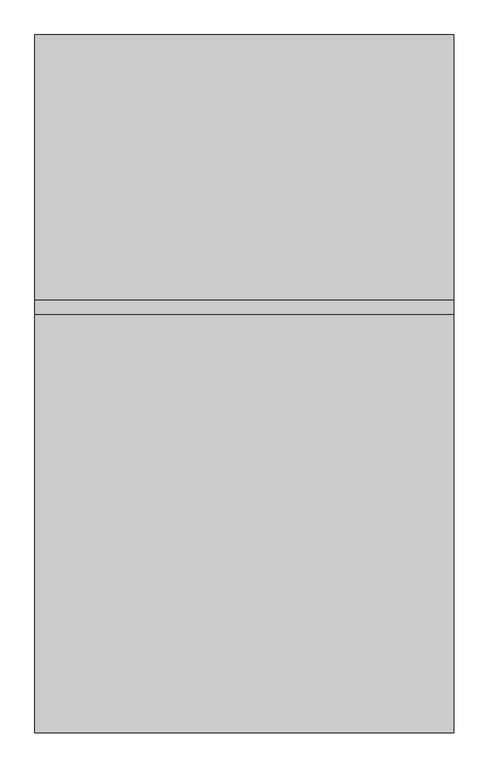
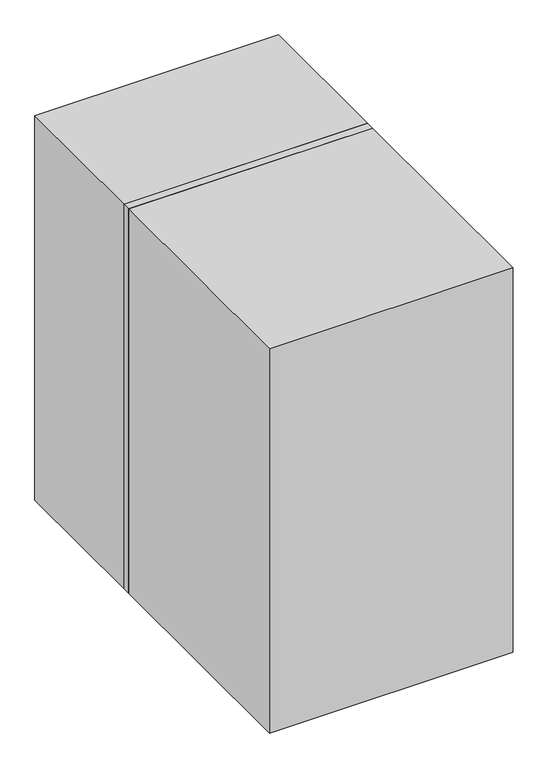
"""IFC4 building model written with IfcOpenShell, lengths in millimetres: electric distribution board geometry, НВО_НавесныеШкафыТелекоммуникационныеСтекляннаяДверца_DKC : IP31 RAL7035 400х600х1000 мм (ГхШхВ)."""

import ifcopenshell
import ifcopenshell.guid

model = None  # the IFC model being written
_history = None  # IfcOwnerHistory: only IFC2X3 demands one
_inside = {}  # id of a spatial element -> (the spatial element, [elements in it])
_under = {}  # id of a project, library or spatial element -> (it, [spatial elements below it])
_declared = {}  # id of a project -> (the project, [libraries it declares])
_typed = {}  # id of a type object -> (the type object, [elements of that type])
_made_of = {}  # id of a material, layer set ... -> (it, [elements and type objects made of it])


def new_model(schema):
    """Start an empty IFC model of exactly this schema.

    Asked for "IFC4X3", IfcOpenShell would pick the latest addendum, in which some entities
    have other attributes; the version numbers below select the first issue.
    IFC2X3 requires an IfcOwnerHistory on every rooted entity: one is made here for all.
    """
    global model, _history
    if schema == "IFC4X3":
        model = ifcopenshell.file(schema_version=(4, 3, 0, 0))
    else:
        model = ifcopenshell.file(schema=schema)
    _inside.clear()
    _under.clear()
    _declared.clear()
    _typed.clear()
    _made_of.clear()
    _history = None
    if model.schema == "IFC2X3":
        org = make("IfcOrganization", Name="unknown")
        user = make(
            "IfcPersonAndOrganization",
            ThePerson=make("IfcPerson", FamilyName="unknown"),
            TheOrganization=org,
        )
        app = make(
            "IfcApplication",
            ApplicationDeveloper=org,
            Version="unknown",
            ApplicationFullName="unknown",
            ApplicationIdentifier="unknown",
        )
        _history = make(
            "IfcOwnerHistory",
            OwningUser=user,
            OwningApplication=app,
            ChangeAction="ADDED",
            CreationDate=0,
        )
    return model


def make(cls, **values):
    """One entity of the class cls with the attributes given. An attribute that is None is left unset."""
    return model.create_entity(
        cls, **{name: value for name, value in values.items() if value is not None}
    )


def rooted(cls, **values):
    """An entity with a GlobalId (a new one), such as an element, a storey or a relation."""
    return make(cls, GlobalId=ifcopenshell.guid.new(), OwnerHistory=_history, **values)


def si_unit(unit_type, name, prefix=None):
    """IfcSIUnit, for example si_unit("LENGTHUNIT", "METRE", prefix="MILLI")."""
    return make("IfcSIUnit", UnitType=unit_type, Prefix=prefix, Name=name)


def assignment(units):
    """IfcUnitAssignment: the units of a project."""
    return None if units is None else make("IfcUnitAssignment", Units=units)


def point(xyz):
    """IfcCartesianPoint."""
    return None if xyz is None else make("IfcCartesianPoint", Coordinates=xyz)


def direction(xyz):
    """IfcDirection."""
    return None if xyz is None else make("IfcDirection", DirectionRatios=xyz)


def frame(location, z_axis=None, x_axis=None):
    """IfcAxis2Placement3D, a coordinate frame: its origin and axes. An axis left out is left unset."""
    return make(
        "IfcAxis2Placement3D",
        Location=point(location),
        Axis=direction(z_axis),
        RefDirection=direction(x_axis),
    )


def frame_2d(location, x_axis=None):
    """IfcAxis2Placement2D, a coordinate frame in the plane: its origin and x axis."""
    return make(
        "IfcAxis2Placement2D", Location=point(location), RefDirection=direction(x_axis)
    )


def origin():
    """The frame at (0, 0, 0) with its axes left unset."""
    return frame((0.0, 0.0, 0.0))


def place(relative_to, where):
    """IfcLocalPlacement: puts the frame where relative to a parent placement (None: the world)."""
    return make(
        "IfcLocalPlacement", PlacementRelTo=relative_to, RelativePlacement=where
    )


def context(
    kind, dimensions, precision=None, world=None, true_north=None, identifier=None
):
    """IfcGeometricRepresentationContext, for example the 3D "Model" context."""
    return make(
        "IfcGeometricRepresentationContext",
        ContextIdentifier=identifier,
        ContextType=kind,
        CoordinateSpaceDimension=dimensions,
        Precision=precision,
        WorldCoordinateSystem=world,
        TrueNorth=true_north,
    )


def project(units=None, contexts=None):
    """IfcProject with its units and contexts."""
    return rooted(
        "IfcProject",
        Name="project",
        RepresentationContexts=contexts,
        UnitsInContext=assignment(units),
    )


def spatial(cls, under=None, at=None, **own):
    """A site, building, storey or space (cls), placed at a placement, below another one or the project."""
    s = rooted(cls, ObjectPlacement=at, **own)
    if under is not None:
        _under.setdefault(under.id(), (under, []))[1].append(s)
    return s


def polyline(points):
    """IfcPolyline through the points."""
    return make("IfcPolyline", Points=[point(p) for p in points])


def circle_curve(where, radius):
    """IfcCircle in the frame where."""
    return make("IfcCircle", Position=where, Radius=radius)


def trimmed(basis, trim1, trim2, sense, master):
    """IfcTrimmedCurve: the piece of a basis curve between two trims."""
    return make(
        "IfcTrimmedCurve",
        BasisCurve=basis,
        Trim1=trim1,
        Trim2=trim2,
        SenseAgreement=sense,
        MasterRepresentation=master,
    )


def segment(curve, same_sense, transition):
    """IfcCompositeCurveSegment."""
    return make(
        "IfcCompositeCurveSegment",
        Transition=transition,
        SameSense=same_sense,
        ParentCurve=curve,
    )


def composite_curve(segments, self_intersect=None):
    """IfcCompositeCurve: segments joined end to end."""
    return make("IfcCompositeCurve", Segments=segments, SelfIntersect=self_intersect)


def outline(outer, holes=None, kind="AREA"):
    """IfcArbitraryClosedProfileDef: a profile drawn as a closed curve; with holes, ...WithVoids."""
    if holes is None:
        return make("IfcArbitraryClosedProfileDef", ProfileType=kind, OuterCurve=outer)
    return make(
        "IfcArbitraryProfileDefWithVoids",
        ProfileType=kind,
        OuterCurve=outer,
        InnerCurves=holes,
    )


def extrude(swept, where, along, depth):
    """IfcExtrudedAreaSolid: the profile swept, set in the frame where, extruded along a direction by depth."""
    return make(
        "IfcExtrudedAreaSolid",
        SweptArea=swept,
        Position=where,
        ExtrudedDirection=direction(along),
        Depth=depth,
    )


def faces_of(points, faces, orient=None, outer=None):
    """IfcFace entities. A face is a list of loops; a loop is a list of indices into points, from 0.

    orient and outer hold one flag for each loop. By default every Orientation is true, the
    first loop of a face is its IfcFaceOuterBound and the others are IfcFaceBound.
    """
    made = []
    for i, loops in enumerate(faces):
        bounds = []
        for j, loop in enumerate(loops):
            is_outer = j == 0 if outer is None else outer[i][j]
            bounds.append(
                make(
                    "IfcFaceOuterBound" if is_outer else "IfcFaceBound",
                    Bound=make("IfcPolyLoop", Polygon=[points[k] for k in loop]),
                    Orientation=True if orient is None else orient[i][j],
                )
            )
        made.append(make("IfcFace", Bounds=bounds))
    return made


def faceted_brep(points, faces, orient=None, outer=None, voids=None):
    """IfcFacetedBrep: a solid bounded by flat faces; with voids (closed shells), ...WithVoids."""
    shared = [point(p) for p in points]
    hull = make("IfcClosedShell", CfsFaces=faces_of(shared, faces, orient, outer))
    if voids is None:
        return make("IfcFacetedBrep", Outer=hull)
    return make(
        "IfcFacetedBrepWithVoids",
        Outer=hull,
        Voids=[
            make(cls, CfsFaces=faces_of(shared, fs, o, b)) for cls, fs, o, b in voids
        ],
    )


def shape(context_of_items, identifier, shape_type, items):
    """IfcShapeRepresentation: the items that make up one representation, for example the "Body"."""
    return make(
        "IfcShapeRepresentation",
        ContextOfItems=context_of_items,
        RepresentationIdentifier=identifier,
        RepresentationType=shape_type,
        Items=items,
    )


def source(mapping_origin, context_of_items, identifier, shape_type, items):
    """IfcRepresentationMap: a shape defined once, which mapped items show again and again."""
    return make(
        "IfcRepresentationMap",
        MappingOrigin=mapping_origin,
        MappedRepresentation=shape(context_of_items, identifier, shape_type, items),
    )


def transform(
    local_origin,
    x_axis=None,
    y_axis=None,
    z_axis=None,
    scale=None,
    scale2=None,
    scale3=None,
    uniform=True,
):
    """IfcCartesianTransformationOperator3D, or its non-uniform kind. x_axis, y_axis, z_axis: its Axis1, 2, 3."""
    if uniform:
        return make(
            "IfcCartesianTransformationOperator3D",
            Axis1=direction(x_axis),
            Axis2=direction(y_axis),
            LocalOrigin=point(local_origin),
            Scale=scale,
            Axis3=direction(z_axis),
        )
    return make(
        "IfcCartesianTransformationOperator3DnonUniform",
        Axis1=direction(x_axis),
        Axis2=direction(y_axis),
        LocalOrigin=point(local_origin),
        Scale=scale,
        Axis3=direction(z_axis),
        Scale2=scale2,
        Scale3=scale3,
    )


def mapped(mapping_source, mapping_target):
    """IfcMappedItem: shows the shape of a source again, moved by a transform."""
    return make(
        "IfcMappedItem", MappingSource=mapping_source, MappingTarget=mapping_target
    )


def made_of(thing, what):
    """Note that an element or type object is made of a material, layer set ...; save() writes the relation."""
    if what is not None:
        _made_of.setdefault(what.id(), (what, []))[1].append(thing)
    return thing


def element(
    cls,
    number,
    at=None,
    inside=None,
    cuts=None,
    type_object=None,
    material=None,
    context=None,
    identifier="Body",
    shape_type=None,
    held_by="IfcProductDefinitionShape",
    body=None,
    shapes=None,
    **own,
):
    """One element of the class cls, such as IfcWall. Its Tag is "e" and its number.

    at: its placement. inside: the storey or other place that contains it. cuts: it is an
    opening in that element (IfcRelVoidsElement). A single representation is given by context,
    identifier, shape_type and body (its items); several are given by shapes. held_by: the class
    of the entity that holds the representations. save() writes the other relations.
    """
    e = rooted(cls, Tag="e%d" % number, ObjectPlacement=at, **own)
    if body is not None:
        shapes = [shape(context, identifier, shape_type, body)]
    if shapes is not None:
        e.Representation = make(held_by, Representations=shapes)
    if inside is not None:
        _inside.setdefault(inside.id(), (inside, []))[1].append(e)
    if cuts is not None:
        rooted(
            "IfcRelVoidsElement", RelatingBuildingElement=cuts, RelatedOpeningElement=e
        )
    if type_object is not None:
        _typed.setdefault(type_object.id(), (type_object, []))[1].append(e)
    return made_of(e, material)


def aggregate(whole, parts):
    """IfcRelAggregates: a whole, such as a stair, and the parts it consists of."""
    return rooted("IfcRelAggregates", RelatingObject=whole, RelatedObjects=parts)


def save(model, path):
    """Write the relations noted so far, then the file.

    IfcRelAggregates (storeys below a building ...), IfcRelContainedInSpatialStructure (elements
    in a storey), IfcRelDefinesByType, IfcRelAssociatesMaterial and IfcRelDeclares: one each for
    every whole, place, type object, material and project.
    """
    for whole, parts in _under.values():
        aggregate(whole, parts)
    for where, things in _inside.values():
        rooted(
            "IfcRelContainedInSpatialStructure",
            RelatedElements=things,
            RelatingStructure=where,
        )
    for kind, things in _typed.values():
        rooted("IfcRelDefinesByType", RelatedObjects=things, RelatingType=kind)
    for what, things in _made_of.values():
        rooted("IfcRelAssociatesMaterial", RelatedObjects=things, RelatingMaterial=what)
    for by, libraries in _declared.values():
        rooted("IfcRelDeclares", RelatingContext=by, RelatedDefinitions=libraries)
    model.write(path)


def plane_surface(at):
    """IfcPlane: the flat surface through the origin of the frame at, square to its z axis."""
    return make("IfcPlane", Position=at)


def cylinder_surface(at, radius):
    """IfcCylindricalSurface: all points at the distance radius from the z axis of the frame at."""
    return make("IfcCylindricalSurface", Position=at, Radius=radius)


def revolved_surface(curve, axis_point, axis_direction):
    """IfcSurfaceOfRevolution: the curve turned about the line through axis_point along axis_direction."""
    return make(
        "IfcSurfaceOfRevolution",
        SweptCurve=make("IfcArbitraryOpenProfileDef", ProfileType="CURVE", Curve=curve),
        AxisPosition=make("IfcAxis1Placement", Location=point(axis_point), Axis=direction(axis_direction)),
    )


def advanced_brep(points, edges, surfaces, faces):
    """IfcAdvancedBrep: a solid bounded by faces that lie on surfaces and meet in shared edges.

    An edge is (start, end): straight between two places in points (the first is 0);
    or (start, end, curve); or (start, end, curve, False) where it runs against its curve.
    A face is (place in surfaces, loops), or (place, loops, False) where it looks against
    its surface's normal. A loop lists edges by number (the first is 1), with a minus sign
    where the edge is run from its end to its start. The first loop is the outer one.
    """
    corners = [point(p) for p in points]
    vertices = [make("IfcVertexPoint", VertexGeometry=c) for c in corners]
    made = []
    for start, end, *more in edges:
        made.append(
            make(
                "IfcEdgeCurve",
                EdgeStart=vertices[start],
                EdgeEnd=vertices[end],
                EdgeGeometry=more[0] if more else make("IfcPolyline", Points=[corners[start], corners[end]]),
                SameSense=more[1] if len(more) > 1 else True,
            )
        )
    hull = []
    for where, loops, *sense in faces:
        bounds = []
        for j, loop in enumerate(loops):
            ring = [make("IfcOrientedEdge", EdgeElement=made[abs(k) - 1], Orientation=k > 0) for k in loop]
            bounds.append(
                make(
                    "IfcFaceOuterBound" if j == 0 else "IfcFaceBound",
                    Bound=make("IfcEdgeLoop", EdgeList=ring),
                    Orientation=True,
                )
            )
        hull.append(make("IfcAdvancedFace", Bounds=bounds, FaceSurface=surfaces[where], SameSense=sense[0] if sense else True))
    return make("IfcAdvancedBrep", Outer=make("IfcClosedShell", CfsFaces=hull))


def electric_distribution_board_b48a5c49(model_context):
    return source(origin(), model_context, "Body", "SolidModel", [
        extrude(outline(composite_curve([segment(polyline([(1245.2522548, -270.4361714), (1245.2522548, -262.7599567)]), True, "CONTINUOUS"), segment(trimmed(circle_curve(frame_2d((1254.6374537, -262.7599567)), 9.3851989), [point((1245.2522548, -262.7599567))], [point((1245.9237849, -259.2737072))], False, "CARTESIAN"), True, "CONTINUOUS"), segment(trimmed(circle_curve(frame_2d((1250.4697033, -261.0924825)), 4.8962555), [point((1245.9237849, -259.2737072))], [point((1250.0, -256.2188087))], False, "CARTESIAN"), True, "CONTINUOUS"), segment(trimmed(circle_curve(frame_2d((1249.5302967, -261.0924825)), 4.8962555), [point((1250.0, -256.2188087))], [point((1254.0762151, -259.2737072))], False, "CARTESIAN"), True, "CONTINUOUS"), segment(trimmed(circle_curve(frame_2d((1245.3625463, -262.7599567)), 9.3851989), [point((1254.0762151, -259.2737072))], [point((1254.7477452, -262.7599567))], False, "CARTESIAN"), True, "CONTINUOUS"), segment(polyline([(1254.7477452, -262.7599567), (1254.7477452, -270.4361714), (1245.2522548, -270.4361714)]), True, "CONTINUOUS")], self_intersect=False), holes=[composite_curve([segment(polyline([(1253.4305842, -266.8662202), (1253.4305842, -264.3065187)]), True, "CONTINUOUS"), segment(trimmed(circle_curve(frame_2d((1245.7124901, -264.3065187)), 7.7180942), [point((1253.4305842, -264.3065187))], [point((1252.8023319, -261.256417))], True, "CARTESIAN"), True, "CONTINUOUS"), segment(trimmed(circle_curve(frame_2d((1251.0797503, -261.9974842)), 1.8752248), [point((1252.8023319, -261.256417))], [point((1251.4095765, -260.1514932))], True, "CARTESIAN"), True, "CONTINUOUS"), segment(trimmed(circle_curve(frame_2d((1249.6204625, -270.1649135)), 10.1719966), [point((1251.4095765, -260.1514932))], [point((1250.0, -260.0))], True, "CARTESIAN"), True, "CONTINUOUS"), segment(trimmed(circle_curve(frame_2d((1250.3795375, -270.1649135)), 10.1719966), [point((1250.0, -260.0))], [point((1248.5904235, -260.1514932))], True, "CARTESIAN"), True, "CONTINUOUS"), segment(trimmed(circle_curve(frame_2d((1248.9202497, -261.9974842)), 1.8752248), [point((1248.5904235, -260.1514932))], [point((1247.1976681, -261.256417))], True, "CARTESIAN"), True, "CONTINUOUS"), segment(trimmed(circle_curve(frame_2d((1254.2875099, -264.3065187)), 7.7180942), [point((1247.1976681, -261.256417))], [point((1246.5694158, -264.3065187))], True, "CARTESIAN"), True, "CONTINUOUS"), segment(polyline([(1246.5694158, -264.3065187), (1246.5694158, -266.8662202), (1253.4305842, -266.8662202)]), True, "CONTINUOUS")], self_intersect=False)]), frame((0.0, -402.0, 0.0), z_axis=(0.0, 1.0, 0.0), x_axis=(0.0, 0.0, 1.0)), (0.0, 0.0, 1.0), 2.0),
        extrude(outline(polyline([(1254.7477452, -254.3848727), (1245.2522548, -254.3848727), (1245.2522548, -250.9908575), (1249.2401383, -250.9908575), (1245.2522548, -246.444158), (1245.2522548, -242.3120204), (1250.5384249, -248.1731846), (1254.7477452, -242.4434669), (1254.7477452, -245.0016173), (1250.2876655, -251.0245618), (1254.7477452, -251.0245618), (1254.7477452, -254.3848727)])), frame((0.0, -402.0, 0.0), z_axis=(0.0, 1.0, 0.0), x_axis=(0.0, 0.0, 1.0)), (0.0, 0.0, 1.0), 2.0),
        extrude(outline(composite_curve([segment(trimmed(circle_curve(frame_2d((1240.0078894, -234.3366932)), 14.8634972), [point((1254.0743349, -229.5347498))], [point((1254.6196872, -237.0604615))], False, "CARTESIAN"), True, "CONTINUOUS"), segment(trimmed(circle_curve(frame_2d((1242.9596787, -234.8869328)), 11.860861), [point((1254.6196872, -237.0604615))], [point((1253.3117677, -240.6760845))], False, "CARTESIAN"), True, "CONTINUOUS"), segment(trimmed(circle_curve(frame_2d((1248.8392604, -238.1749446)), 5.1243559), [point((1253.3117677, -240.6760845))], [point((1251.6421758, -242.46478))], False, "CARTESIAN"), True, "CONTINUOUS"), segment(trimmed(circle_curve(frame_2d((1250.1147571, -240.1270803)), 2.7924627), [point((1251.6421758, -242.46478))], [point((1250.0, -242.917184))], False, "CARTESIAN"), True, "CONTINUOUS"), segment(trimmed(circle_curve(frame_2d((1250.1764499, -238.6271352)), 4.2936759), [point((1250.0, -242.917184))], [point((1246.4762827, -240.8053031))], False, "CARTESIAN"), True, "CONTINUOUS"), segment(trimmed(circle_curve(frame_2d((1256.6930797, -234.7910077)), 11.8555763), [point((1246.4762827, -240.8053031))], [point((1245.7901742, -230.134685))], False, "CARTESIAN"), True, "CONTINUOUS"), segment(polyline([(1245.7901742, -230.134685), (1247.2760981, -229.6190256)]), True, "CONTINUOUS"), segment(trimmed(circle_curve(frame_2d((1253.3401731, -233.6307387)), 7.2709591), [point((1247.2760981, -229.6190256))], [point((1247.5933204, -238.0850098))], True, "CARTESIAN"), True, "CONTINUOUS"), segment(trimmed(circle_curve(frame_2d((1249.8135247, -236.3641737)), 2.8090184), [point((1247.5933204, -238.0850098))], [point((1250.8831991, -238.9615532))], True, "CARTESIAN"), True, "CONTINUOUS"), segment(trimmed(circle_curve(frame_2d((1249.3581346, -235.2583969)), 4.0048956), [point((1250.8831991, -238.9615532))], [point((1252.8847256, -237.1563813))], True, "CARTESIAN"), True, "CONTINUOUS"), segment(trimmed(circle_curve(frame_2d((1247.4021495, -234.2057006)), 6.2261671), [point((1252.8847256, -237.1563813))], [point((1252.1645049, -230.1950738))], True, "CARTESIAN"), True, "CONTINUOUS"), segment(polyline([(1252.1645049, -230.1950738), (1254.0743349, -229.5347498)]), True, "CONTINUOUS")], self_intersect=False)), frame((0.0, -402.0, 0.0), z_axis=(0.0, 1.0, 0.0), x_axis=(0.0, 0.0, 1.0)), (0.0, 0.0, 1.0), 2.0),
        extrude(outline(composite_curve([segment(polyline([(-276.0844115, 1253.9810141), (-276.0844115, 1253.1225561), (-277.2764216, 1253.1225561), (-277.2764216, 1253.9989449), (-286.7056091, 1253.9989449), (-286.7056091, 1246.0055647), (-280.8520843, 1246.0055647)]), True, "CONTINUOUS"), segment(trimmed(circle_curve(frame_2d((-280.8520843, 1247.9883644)), 1.9827998), [point((-280.8520843, 1246.0055647))], [point((-282.7799001, 1247.524661))], False, "CARTESIAN"), True, "CONTINUOUS"), segment(polyline([(-282.7799001, 1247.524661), (-282.7799001, 1248.5784181)]), True, "CONTINUOUS"), segment(trimmed(circle_curve(frame_2d((-277.7500222, 1253.048804)), 6.7293403), [point((-282.7799001, 1248.5784181))], [point((-272.7201443, 1248.5784181))], True, "CARTESIAN"), True, "CONTINUOUS"), segment(polyline([(-272.7201443, 1248.5784181), (-272.7201443, 1247.2967122)]), True, "CONTINUOUS"), segment(trimmed(circle_curve(frame_2d((-276.7257862, 1250.1985482)), 4.9462935), [point((-272.7201443, 1247.2967122))], [point((-276.7257862, 1245.2522548))], False, "CARTESIAN"), True, "CONTINUOUS"), segment(polyline([(-276.7257862, 1245.2522548), (-288.8959546, 1245.2522548)]), True, "CONTINUOUS"), segment(trimmed(circle_curve(frame_2d((-288.8959546, 1246.2525173)), 1.0002626), [point((-288.8959546, 1245.2522548))], [point((-289.8962172, 1246.2525173))], False, "CARTESIAN"), True, "CONTINUOUS"), segment(polyline([(-289.8962172, 1246.2525173), (-289.8962172, 1253.7482214)]), True, "CONTINUOUS"), segment(trimmed(circle_curve(frame_2d((-288.8921838, 1253.7482214)), 1.0040334), [point((-289.8962172, 1253.7482214))], [point((-288.8921838, 1254.7522548))], False, "CARTESIAN"), True, "CONTINUOUS"), segment(polyline([(-288.8921838, 1254.7522548), (-276.8556522, 1254.7522548)]), True, "CONTINUOUS"), segment(trimmed(circle_curve(frame_2d((-276.8556522, 1253.9810141)), 0.7712407), [point((-276.8556522, 1254.7522548))], [point((-276.0844115, 1253.9810141))], False, "CARTESIAN"), True, "CONTINUOUS")], self_intersect=False)), frame((0.0, -400.0, 0.0), z_axis=(0.0, -1.0, 0.0), x_axis=(1.0, 0.0, 0.0)), (0.0, 0.0, 1.0), 2.0),
        extrude(outline(composite_curve([segment(polyline([(1249.1735802, -272.7201443), (1249.9609475, -272.7201443)]), True, "CONTINUOUS"), segment(trimmed(circle_curve(frame_2d((1255.0528216, -277.7500222)), 7.1572937), [point((1249.9609475, -272.7201443))], [point((1249.9609475, -282.7799001))], True, "CARTESIAN"), True, "CONTINUOUS"), segment(polyline([(1249.9609475, -282.7799001), (1249.1735802, -282.7799001)]), True, "CONTINUOUS"), segment(trimmed(circle_curve(frame_2d((1253.6469573, -277.7500222)), 6.7313279), [point((1249.1735802, -282.7799001))], [point((1249.1735802, -272.7201443))], False, "CARTESIAN"), True, "CONTINUOUS")], self_intersect=False)), frame((0.0, -402.0, 0.0), z_axis=(0.0, 1.0, 0.0), x_axis=(0.0, 0.0, 1.0)), (0.0, 0.0, 1.0), 2.0),
        extrude(outline(composite_curve([segment(trimmed(circle_curve(frame_2d((1245.6681942, -277.6745713)), 5.9267817), [point((1249.8365314, -273.4612939))], [point((1249.892123, -281.8321146))], False, "CARTESIAN"), True, "CONTINUOUS"), segment(polyline([(1249.892123, -281.8321146), (1249.3386839, -281.2786755)]), True, "CONTINUOUS"), segment(trimmed(circle_curve(frame_2d((1244.0800223, -277.6967539)), 6.3626791), [point((1249.3386839, -281.2786755))], [point((1249.3386839, -274.1148323))], True, "CARTESIAN"), True, "CONTINUOUS"), segment(polyline([(1249.3386839, -274.1148323), (1249.8365314, -273.4612939)]), True, "CONTINUOUS")], self_intersect=False)), frame((0.0, -402.0, 0.0), z_axis=(0.0, 1.0, 0.0), x_axis=(0.0, 0.0, 1.0)), (0.0, 0.0, 1.0), 2.0),
        extrude(outline(composite_curve([segment(trimmed(circle_curve(frame_2d((1243.5765057, -277.7053491)), 6.5304546), [point((1249.2646248, -274.4972128))], [point((1249.2646248, -280.9134855))], False, "CARTESIAN"), True, "CONTINUOUS"), segment(polyline([(1249.2646248, -280.9134855), (1248.9146088, -280.0681193)]), True, "CONTINUOUS"), segment(trimmed(circle_curve(frame_2d((1242.4429647, -277.6966214)), 6.8924726), [point((1248.9146088, -280.0681193))], [point((1248.9146088, -275.3251236))], True, "CARTESIAN"), True, "CONTINUOUS"), segment(polyline([(1248.9146088, -275.3251236), (1249.2646248, -274.4972128)]), True, "CONTINUOUS")], self_intersect=False)), frame((0.0, -402.0, 0.0), z_axis=(0.0, 1.0, 0.0), x_axis=(0.0, 0.0, 1.0)), (0.0, 0.0, 1.0), 2.0),
        extrude(outline(composite_curve([segment(polyline([(1249.9744254, -273.3219133), (1250.6884044, -272.6079342)]), True, "CONTINUOUS"), segment(trimmed(circle_curve(frame_2d((1245.6681942, -277.6745713)), 7.1325536), [point((1250.6884044, -272.6079342))], [point((1250.7458455, -282.683641))], False, "CARTESIAN"), True, "CONTINUOUS"), segment(polyline([(1250.7458455, -282.683641), (1250.031856, -281.9696515)]), True, "CONTINUOUS"), segment(trimmed(circle_curve(frame_2d((1245.6681942, -277.6745713)), 6.1228472), [point((1250.031856, -281.9696515))], [point((1249.9744254, -273.3219133))], True, "CARTESIAN"), True, "CONTINUOUS")], self_intersect=False)), frame((0.0, -402.0, 0.0), z_axis=(0.0, 1.0, 0.0), x_axis=(0.0, 0.0, 1.0)), (0.0, 0.0, 1.0), 2.0),
        extrude(outline(polyline([(1800.0, 300.0), (1800.0, -300.0), (800.0, -300.0), (800.0, 300.0), (1800.0, 300.0)]), holes=[polyline([(880.0, -220.0), (1720.0, -220.0), (1720.0, 220.0), (880.0, 220.0), (880.0, -220.0)]), polyline([(940.0, -267.5), (980.0, -267.5), (980.0, -262.5), (945.0, -262.5), (945.0, -227.5), (940.0, -227.5), (940.0, -267.5)]), polyline([(990.0, -252.5), (950.0, -252.5), (950.0, -257.5), (985.0, -257.5), (985.0, -292.5), (990.0, -292.5), (990.0, -252.5)]), polyline([(980.0, 262.5), (980.0, 267.5), (940.0, 267.5), (940.0, 227.5), (945.0, 227.5), (945.0, 262.5), (980.0, 262.5)]), polyline([(950.0, 257.5), (950.0, 252.5), (990.0, 252.5), (990.0, 292.5), (985.0, 292.5), (985.0, 257.5), (950.0, 257.5)]), polyline([(1000.0, -267.5), (1040.0, -267.5), (1040.0, -262.5), (1005.0, -262.5), (1005.0, -227.5), (1000.0, -227.5), (1000.0, -267.5)]), polyline([(1050.0, -252.5), (1010.0, -252.5), (1010.0, -257.5), (1045.0, -257.5), (1045.0, -292.5), (1050.0, -292.5), (1050.0, -252.5)]), polyline([(1040.0, 262.5), (1040.0, 267.5), (1000.0, 267.5), (1000.0, 227.5), (1005.0, 227.5), (1005.0, 262.5), (1040.0, 262.5)]), polyline([(1010.0, 257.5), (1010.0, 252.5), (1050.0, 252.5), (1050.0, 292.5), (1045.0, 292.5), (1045.0, 257.5), (1010.0, 257.5)]), polyline([(1060.0, -267.5), (1100.0, -267.5), (1100.0, -262.5), (1065.0, -262.5), (1065.0, -227.5), (1060.0, -227.5), (1060.0, -267.5)]), polyline([(1110.0, -252.5), (1070.0, -252.5), (1070.0, -257.5), (1105.0, -257.5), (1105.0, -292.5), (1110.0, -292.5), (1110.0, -252.5)]), polyline([(1100.0, 262.5), (1100.0, 267.5), (1060.0, 267.5), (1060.0, 227.5), (1065.0, 227.5), (1065.0, 262.5), (1100.0, 262.5)]), polyline([(1070.0, 257.5), (1070.0, 252.5), (1110.0, 252.5), (1110.0, 292.5), (1105.0, 292.5), (1105.0, 257.5), (1070.0, 257.5)]), polyline([(1120.0, -267.5), (1160.0, -267.5), (1160.0, -262.5), (1125.0, -262.5), (1125.0, -227.5), (1120.0, -227.5), (1120.0, -267.5)]), polyline([(1170.0, -252.5), (1130.0, -252.5), (1130.0, -257.5), (1165.0, -257.5), (1165.0, -292.5), (1170.0, -292.5), (1170.0, -252.5)]), polyline([(1160.0, 262.5), (1160.0, 267.5), (1120.0, 267.5), (1120.0, 227.5), (1125.0, 227.5), (1125.0, 262.5), (1160.0, 262.5)]), polyline([(1130.0, 257.5), (1130.0, 252.5), (1170.0, 252.5), (1170.0, 292.5), (1165.0, 292.5), (1165.0, 257.5), (1130.0, 257.5)]), polyline([(1180.0, -267.5), (1220.0, -267.5), (1220.0, -262.5), (1185.0, -262.5), (1185.0, -227.5), (1180.0, -227.5), (1180.0, -267.5)]), polyline([(1230.0, -252.5), (1190.0, -252.5), (1190.0, -257.5), (1225.0, -257.5), (1225.0, -292.5), (1230.0, -292.5), (1230.0, -252.5)]), polyline([(1220.0, 262.5), (1220.0, 267.5), (1180.0, 267.5), (1180.0, 227.5), (1185.0, 227.5), (1185.0, 262.5), (1220.0, 262.5)]), polyline([(1190.0, 257.5), (1190.0, 252.5), (1230.0, 252.5), (1230.0, 292.5), (1225.0, 292.5), (1225.0, 257.5), (1190.0, 257.5)]), polyline([(1240.0, -267.5), (1280.0, -267.5), (1280.0, -262.5), (1245.0, -262.5), (1245.0, -227.5), (1240.0, -227.5), (1240.0, -267.5)]), polyline([(1290.0, -252.5), (1250.0, -252.5), (1250.0, -257.5), (1285.0, -257.5), (1285.0, -292.5), (1290.0, -292.5), (1290.0, -252.5)]), polyline([(1280.0, 262.5), (1280.0, 267.5), (1240.0, 267.5), (1240.0, 227.5), (1245.0, 227.5), (1245.0, 262.5), (1280.0, 262.5)]), polyline([(1250.0, 257.5), (1250.0, 252.5), (1290.0, 252.5), (1290.0, 292.5), (1285.0, 292.5), (1285.0, 257.5), (1250.0, 257.5)]), polyline([(1300.0, -267.5), (1340.0, -267.5), (1340.0, -262.5), (1305.0, -262.5), (1305.0, -227.5), (1300.0, -227.5), (1300.0, -267.5)]), polyline([(1350.0, -252.5), (1310.0, -252.5), (1310.0, -257.5), (1345.0, -257.5), (1345.0, -292.5), (1350.0, -292.5), (1350.0, -252.5)]), polyline([(1340.0, 262.5), (1340.0, 267.5), (1300.0, 267.5), (1300.0, 227.5), (1305.0, 227.5), (1305.0, 262.5), (1340.0, 262.5)]), polyline([(1310.0, 257.5), (1310.0, 252.5), (1350.0, 252.5), (1350.0, 292.5), (1345.0, 292.5), (1345.0, 257.5), (1310.0, 257.5)]), polyline([(1360.0, -267.5), (1400.0, -267.5), (1400.0, -262.5), (1365.0, -262.5), (1365.0, -227.5), (1360.0, -227.5), (1360.0, -267.5)]), polyline([(1410.0, -252.5), (1370.0, -252.5), (1370.0, -257.5), (1405.0, -257.5), (1405.0, -292.5), (1410.0, -292.5), (1410.0, -252.5)]), polyline([(1400.0, 262.5), (1400.0, 267.5), (1360.0, 267.5), (1360.0, 227.5), (1365.0, 227.5), (1365.0, 262.5), (1400.0, 262.5)]), polyline([(1370.0, 257.5), (1370.0, 252.5), (1410.0, 252.5), (1410.0, 292.5), (1405.0, 292.5), (1405.0, 257.5), (1370.0, 257.5)]), polyline([(1420.0, -267.5), (1460.0, -267.5), (1460.0, -262.5), (1425.0, -262.5), (1425.0, -227.5), (1420.0, -227.5), (1420.0, -267.5)]), polyline([(1470.0, -252.5), (1430.0, -252.5), (1430.0, -257.5), (1465.0, -257.5), (1465.0, -292.5), (1470.0, -292.5), (1470.0, -252.5)]), polyline([(1460.0, 262.5), (1460.0, 267.5), (1420.0, 267.5), (1420.0, 227.5), (1425.0, 227.5), (1425.0, 262.5), (1460.0, 262.5)]), polyline([(1430.0, 257.5), (1430.0, 252.5), (1470.0, 252.5), (1470.0, 292.5), (1465.0, 292.5), (1465.0, 257.5), (1430.0, 257.5)]), polyline([(1480.0, -267.5), (1520.0, -267.5), (1520.0, -262.5), (1485.0, -262.5), (1485.0, -227.5), (1480.0, -227.5), (1480.0, -267.5)]), polyline([(1530.0, -252.5), (1490.0, -252.5), (1490.0, -257.5), (1525.0, -257.5), (1525.0, -292.5), (1530.0, -292.5), (1530.0, -252.5)]), polyline([(1520.0, 262.5), (1520.0, 267.5), (1480.0, 267.5), (1480.0, 227.5), (1485.0, 227.5), (1485.0, 262.5), (1520.0, 262.5)]), polyline([(1490.0, 257.5), (1490.0, 252.5), (1530.0, 252.5), (1530.0, 292.5), (1525.0, 292.5), (1525.0, 257.5), (1490.0, 257.5)]), polyline([(1540.0, -267.5), (1580.0, -267.5), (1580.0, -262.5), (1545.0, -262.5), (1545.0, -227.5), (1540.0, -227.5), (1540.0, -267.5)]), polyline([(1590.0, -252.5), (1550.0, -252.5), (1550.0, -257.5), (1585.0, -257.5), (1585.0, -292.5), (1590.0, -292.5), (1590.0, -252.5)]), polyline([(1580.0, 262.5), (1580.0, 267.5), (1540.0, 267.5), (1540.0, 227.5), (1545.0, 227.5), (1545.0, 262.5), (1580.0, 262.5)]), polyline([(1550.0, 257.5), (1550.0, 252.5), (1590.0, 252.5), (1590.0, 292.5), (1585.0, 292.5), (1585.0, 257.5), (1550.0, 257.5)]), polyline([(1600.0, -267.5), (1640.0, -267.5), (1640.0, -262.5), (1605.0, -262.5), (1605.0, -227.5), (1600.0, -227.5), (1600.0, -267.5)]), polyline([(1650.0, -252.5), (1610.0, -252.5), (1610.0, -257.5), (1645.0, -257.5), (1645.0, -292.5), (1650.0, -292.5), (1650.0, -252.5)]), polyline([(1640.0, 262.5), (1640.0, 267.5), (1600.0, 267.5), (1600.0, 227.5), (1605.0, 227.5), (1605.0, 262.5), (1640.0, 262.5)]), polyline([(1610.0, 257.5), (1610.0, 252.5), (1650.0, 252.5), (1650.0, 292.5), (1645.0, 292.5), (1645.0, 257.5), (1610.0, 257.5)]), polyline([(1660.0, -267.5), (1700.0, -267.5), (1700.0, -262.5), (1665.0, -262.5), (1665.0, -227.5), (1660.0, -227.5), (1660.0, -267.5)]), polyline([(1710.0, -252.5), (1670.0, -252.5), (1670.0, -257.5), (1705.0, -257.5), (1705.0, -292.5), (1710.0, -292.5), (1710.0, -252.5)]), polyline([(1700.0, 262.5), (1700.0, 267.5), (1660.0, 267.5), (1660.0, 227.5), (1665.0, 227.5), (1665.0, 262.5), (1700.0, 262.5)]), polyline([(1670.0, 257.5), (1670.0, 252.5), (1710.0, 252.5), (1710.0, 292.5), (1705.0, 292.5), (1705.0, 257.5), (1670.0, 257.5)]), polyline([(880.0, -267.5), (920.0, -267.5), (920.0, -262.5), (885.0, -262.5), (885.0, -227.5), (880.0, -227.5), (880.0, -267.5)]), polyline([(930.0, -252.5), (890.0, -252.5), (890.0, -257.5), (925.0, -257.5), (925.0, -292.5), (930.0, -292.5), (930.0, -252.5)]), polyline([(920.0, 262.5), (920.0, 267.5), (880.0, 267.5), (880.0, 227.5), (885.0, 227.5), (885.0, 262.5), (920.0, 262.5)]), polyline([(890.0, 257.5), (890.0, 252.5), (930.0, 252.5), (930.0, 292.5), (925.0, 292.5), (925.0, 257.5), (890.0, 257.5)])]), frame((0.0, -400.0, 0.0), z_axis=(0.0, 1.0, 0.0), x_axis=(0.0, 0.0, 1.0)), (0.0, 0.0, 1.0), 20.0),
        advanced_brep(
        [(-280.0, -410.0, 1287.0), (-280.0, -410.0, 1313.0), (-280.0, -403.0, 1320.0), (-280.0, -400.0, 1320.0), (-280.0, -400.0, 1280.0), (-280.0, -403.0, 1280.0), (-240.0, -410.0, 1287.0), (-240.0, -403.0, 1280.0), (-240.0, -400.0, 1280.0), (-240.0, -400.0, 1320.0), (-240.0, -403.0, 1320.0), (-240.0, -410.0, 1313.0), (-270.0, -410.0, 1300.0), (-250.0, -410.0, 1300.0), (-250.0, -408.0, 1300.0), (-270.0, -408.0, 1300.0)],
        [
            (0, 1),
            (1, 2, circle_curve(frame((-280.0, -403.0, 1313.0), z_axis=(-1.0, 0.0, 0.0), x_axis=(0.0, 0.0, -1.0)), 7.0)),
            (2, 3),
            (3, 4),
            (4, 5),
            (5, 0, circle_curve(frame((-280.0, -403.0, 1287.0), z_axis=(-1.0, 0.0, 0.0), x_axis=(0.0, 0.0, -1.0)), 7.0)),
            (6, 7, circle_curve(frame((-240.0, -403.0, 1287.0), z_axis=(1.0, 0.0, 0.0), x_axis=(0.0, 0.0, -1.0)), 7.0)),
            (7, 8),
            (8, 9),
            (9, 10),
            (10, 11, circle_curve(frame((-240.0, -403.0, 1313.0), z_axis=(1.0, 0.0, 0.0), x_axis=(0.0, 0.0, -1.0)), 7.0)),
            (11, 6),
            (0, 6),
            (11, 1),
            (12, 13, circle_curve(frame((-260.0, -410.0, 1300.0), z_axis=(0.0, 1.0, 0.0), x_axis=(-1.0, 0.0, 0.0)), 10.0)),
            (13, 12, circle_curve(frame((-260.0, -410.0, 1300.0), z_axis=(0.0, 1.0, 0.0), x_axis=(-1.0, 0.0, 0.0)), 10.0)),
            (10, 2),
            (9, 3),
            (8, 4),
            (7, 5),
            (14, 15, circle_curve(frame((-260.0, -408.0, 1300.0), z_axis=(0.0, -1.0, 0.0), x_axis=(-1.0, 0.0, 0.0)), 10.0)),
            (15, 14, circle_curve(frame((-260.0, -408.0, 1300.0), z_axis=(0.0, -1.0, 0.0), x_axis=(-1.0, 0.0, 0.0)), 10.0)),
            (14, 13),
            (12, 15),
        ],
        [
            plane_surface(frame((-280.0, -410.0, 1312.2232354), z_axis=(-1.0, 0.0, 0.0), x_axis=(0.0, 0.0, 1.0))),
            plane_surface(frame((-240.0, -410.0, 1312.2232354), z_axis=(1.0, 0.0, 0.0), x_axis=(0.0, 0.0, -1.0))),
            plane_surface(frame((-280.0, -410.0, 1287.0), z_axis=(0.0, -1.0, 0.0), x_axis=(1.0, 0.0, 0.0))),
            cylinder_surface(frame((-240.0, -403.0, 1313.0), z_axis=(-1.0, 0.0, 0.0), x_axis=(0.0, 0.0, -1.0)), 7.0),
            plane_surface(frame((-280.0, -403.0, 1320.0), z_axis=(0.0, 0.0, 1.0), x_axis=(1.0, 0.0, 0.0))),
            plane_surface(frame((-280.0, -400.0, 1320.0), z_axis=(0.0, 1.0, 0.0), x_axis=(1.0, 0.0, 0.0))),
            plane_surface(frame((-280.0, -400.0, 1280.0), z_axis=(0.0, 0.0, -1.0), x_axis=(1.0, 0.0, 0.0))),
            cylinder_surface(frame((-240.0, -403.0, 1287.0), z_axis=(-1.0, 0.0, 0.0), x_axis=(0.0, 0.0, -1.0)), 7.0),
            plane_surface(frame((-270.0, -408.0, 1300.0), z_axis=(0.0, -1.0, 0.0), x_axis=(0.0, 0.0, 1.0))),
            revolved_surface(polyline([(-270.0, -410.0, 1300.0), (-270.0, -408.0, 1300.0)]), (-260.0, -408.0, 1300.0), (0.0, -1.0, 0.0)),
        ],
        [
            (0, [[1, 2, 3, 4, 5, 6]]),
            (1, [[7, 8, 9, 10, 11, 12]]),
            (2, [[-1, 13, -12, 14], [15, 16]]),
            (3, [[-2, -14, -11, 17]]),
            (4, [[-3, -17, -10, 18]]),
            (5, [[-4, -18, -9, 19]]),
            (6, [[-5, -19, -8, 20]]),
            (7, [[-6, -20, -7, -13]]),
            (8, [[21, 22]]),
            (9, [[-21, 23, -15, 24]]),
            (9, [[-22, -24, -16, -23]]),
        ],
    ),
        extrude(outline(polyline([(220.0, -400.0), (-220.0, -400.0), (-220.0, -399.0), (220.0, -399.0), (220.0, -400.0)])), frame((0.0, 0.0, 880.0), z_axis=(0.0, 0.0, 1.0), x_axis=(1.0, 0.0, 0.0)), (0.0, 0.0, 1.0), 840.0),
        faceted_brep([(-300.0, 0.0, 1800.0), (300.0, 0.0, 1800.0), (300.0, 0.0, 800.0), (-300.0, 0.0, 800.0), (280.0, -20.0, 820.0), (280.0, -20.0, 1780.0), (-280.0, -20.0, 1780.0), (-280.0, -20.0, 820.0), (300.0, -380.0, 1800.0), (-300.0, -380.0, 1800.0), (-300.0, -380.0, 800.0), (300.0, -380.0, 800.0), (280.0, -380.0, 1780.0), (280.0, -380.0, 820.0), (-280.0, -380.0, 820.0), (-280.0, -380.0, 1780.0)], [[[0, 1, 2, 3]], [[4, 5, 6, 7]], [[8, 9, 10, 11], [12, 13, 14, 15]], [[9, 8, 1, 0]], [[10, 9, 0, 3]], [[11, 10, 3, 2]], [[1, 8, 11, 2]], [[13, 12, 5, 4]], [[14, 13, 4, 7]], [[15, 14, 7, 6]], [[12, 15, 6, 5]]]),
        extrude(outline(polyline([(300.0, -1000.0), (-300.0, -1000.0), (-300.0, -400.0), (300.0, -400.0), (300.0, -1000.0)])), frame((0.0, 0.0, 800.0), z_axis=(0.0, 0.0, 1.0), x_axis=(1.0, 0.0, 0.0)), (0.0, 0.0, 1.0), 1000.0),
    ])


if __name__ == "__main__":
    model = new_model("IFC4")
    model_context = context("Model", 3, world=origin())
    ifc_project = project(units=[si_unit("LENGTHUNIT", "METRE", prefix="MILLI")], contexts=[model_context])
    site = spatial("IfcSite", under=ifc_project)
    building = spatial("IfcBuilding", under=site)
    placement = place(None, origin())
    electric_distribution_board_shape = electric_distribution_board_b48a5c49(model_context)
    element("IfcElectricDistributionBoard", 1, ObjectType="НВО_НавесныеШкафыТелекоммуникационныеСтекляннаяДверца_DKC : IP31 RAL7035 400х600х1000 мм (ГхШхВ)", at=placement, inside=building, context=model_context, shape_type="MappedRepresentation", body=[
        mapped(electric_distribution_board_shape, transform((0.0, 0.0, 0.0), x_axis=(1.0, 0.0, 0.0), y_axis=(0.0, 1.0, 0.0), z_axis=(0.0, 0.0, 1.0))),
    ])
    save(model, "model.ifc")
